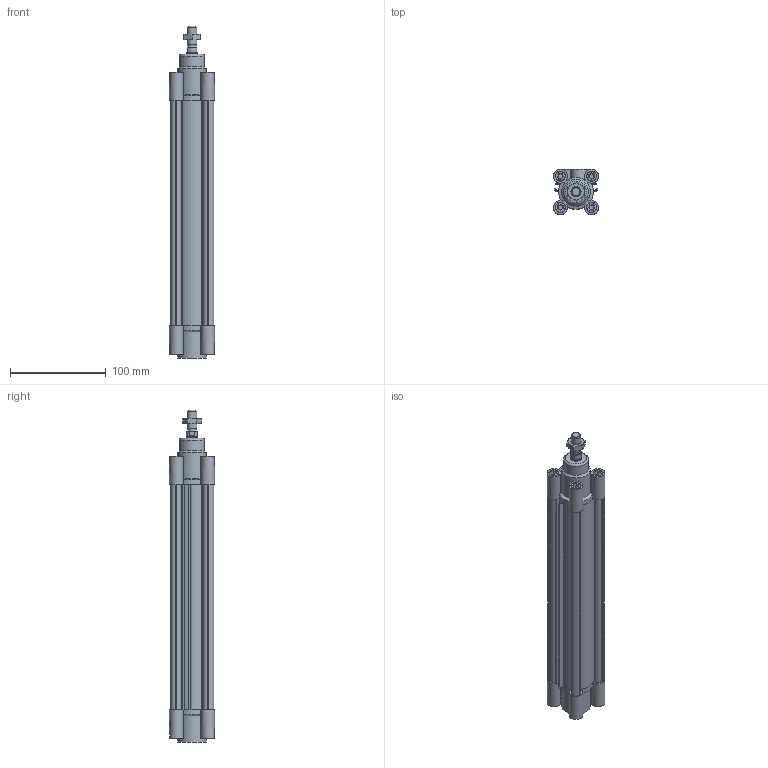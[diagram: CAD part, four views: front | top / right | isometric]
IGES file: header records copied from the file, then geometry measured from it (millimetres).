
Global section: file name: No Iges File Name specified; native system: Autodesk Inventor 2012; preprocessor: AutoDesk Inventor Iges Exporter R2012; author: pilonfr1; date: 20120128.095030; units: millimetre
Bounding box: 47 x 47 x 346.5 mm (x, y, z)
Volume: 286402.3 mm3; surface area: 156980.6 mm2
Topology: 5 solids, 5 shells, 316 faces, 788 edges, 522 vertices
Faces by surface type: plane 200, cylinder 54, revolution 39, cone 22, torus 1
Full cylindrical faces by diameter (mm): 8.8 x1, 10 x9, 11.5 x1, 12 x1, 26 x1, 30 x2, 32 x3
